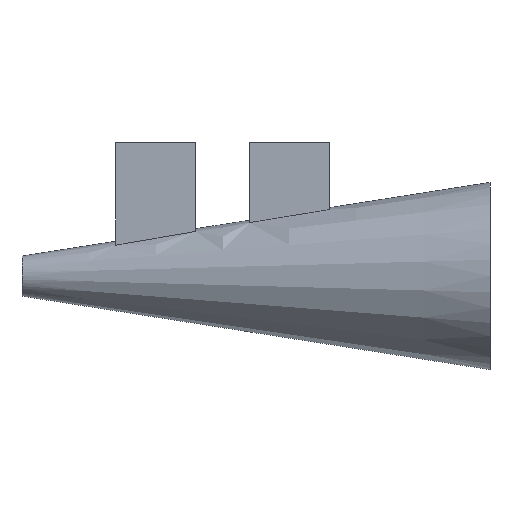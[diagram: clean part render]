
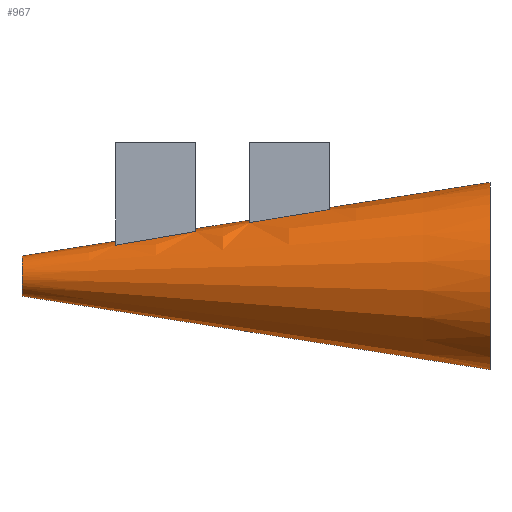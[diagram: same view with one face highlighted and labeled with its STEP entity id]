
A CAD part, left-side view. The second image highlights one B-rep face of the part: STEP entity #967.
In plain terms, the highlighted conical face has half-angle 8.931 degrees and reference radius 7000 mm.
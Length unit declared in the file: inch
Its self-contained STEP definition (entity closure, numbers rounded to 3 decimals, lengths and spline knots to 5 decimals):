
#26 = LINE ( 'NONE', #299, #783 ) ;
#36 = CARTESIAN_POINT ( 'NONE',  ( -47.24409, 492.12938, 192.54602 ) ) ;
#52 = CARTESIAN_POINT ( 'NONE',  ( -47.24409, 511.81714, 189.35911 ) ) ;
#55 = EDGE_CURVE ( 'NONE', #670, #95, #727, .T. ) ;
#56 = VERTEX_POINT ( 'NONE', #495 ) ;
#70 = EDGE_LOOP ( 'NONE', ( #895, #622, #509, #846, #761, #1061, #1032, #899, #536, #740, #992, #489 ) ) ;
#75 = AXIS2_PLACEMENT_3D ( 'NONE', #1130, #99, #881 ) ;
#77 = CARTESIAN_POINT ( 'NONE',  ( -47.24409, 1023.66824, 104.55178 ) ) ;
#80 = CARTESIAN_POINT ( 'NONE',  ( -47.24409, 1063.02324, 97.72606 ) ) ;
#85 = DIRECTION ( 'NONE',  ( 0., 0., -1. ) ) ;
#90 = CARTESIAN_POINT ( 'NONE',  ( 0., 1102.3622, 102.3622 ) ) ;
#95 = VERTEX_POINT ( 'NONE', #1024 ) ;
#99 = DIRECTION ( 'NONE',  ( 0., -1., 0. ) ) ;
#100 = DIRECTION ( 'NONE',  ( 0., 0., -1. ) ) ;
#104 = CIRCLE ( 'NONE', #932, 164.22947 ) ;
#109 = CIRCLE ( 'NONE', #900, 139.48256 ) ;
#115 = VERTEX_POINT ( 'NONE', #874 ) ;
#118 = CARTESIAN_POINT ( 'NONE',  ( 0., 0., 275.59055 ) ) ;
#125 = EDGE_CURVE ( 'NONE', #586, #115, #109, .T. ) ;
#127 = CARTESIAN_POINT ( 'NONE',  ( -47.24409, 708.66142, 157.28736 ) ) ;
#133 = CARTESIAN_POINT ( 'NONE',  ( -47.24409, 688.98066, 160.51656 ) ) ;
#140 = VECTOR ( 'NONE', #567, 39.37008 ) ;
#159 = CARTESIAN_POINT ( 'NONE',  ( -47.24409, 1033.50828, 102.85284 ) ) ;
#177 = DIRECTION ( 'NONE',  ( 0., 1., 0. ) ) ;
#201 = CARTESIAN_POINT ( 'NONE',  ( -47.24409, 994.14365, 109.62272 ) ) ;
#212 = DIRECTION ( 'NONE',  ( 0., -0.988, 0.155 ) ) ;
#220 = CONICAL_SURFACE ( 'NONE', #863, 275.59055, 0.156 ) ;
#227 = LINE ( 'NONE', #510, #344 ) ;
#231 = AXIS2_PLACEMENT_3D ( 'NONE', #866, #525, #879 ) ;
#241 = DIRECTION ( 'NONE',  ( 0., -1., 0. ) ) ;
#269 = CARTESIAN_POINT ( 'NONE',  ( 0., 1377.95276, -59.05512 ) ) ;
#282 = AXIS2_PLACEMENT_3D ( 'NONE', #342, #798, #1045 ) ;
#299 = CARTESIAN_POINT ( 'NONE',  ( 0., 0., 275.59055 ) ) ;
#303 = LINE ( 'NONE', #897, #1010 ) ;
#304 = EDGE_CURVE ( 'NONE', #95, #476, #104, .T. ) ;
#305 = DIRECTION ( 'NONE',  ( 0., 0., -1. ) ) ;
#318 = CARTESIAN_POINT ( 'NONE',  ( -47.24409, 629.93216, 170.16683 ) ) ;
#322 = CARTESIAN_POINT ( 'NONE',  ( 0., 0., -275.59055 ) ) ;
#342 = CARTESIAN_POINT ( 'NONE',  ( 0., 472.44094, 0. ) ) ;
#344 = VECTOR ( 'NONE', #1029, 39.37008 ) ;
#373 = LINE ( 'NONE', #655, #140 ) ;
#376 = DIRECTION ( 'NONE',  ( 0., -0.988, 0.155 ) ) ;
#378 = EDGE_CURVE ( 'NONE', #56, #670, #813, .T. ) ;
#403 = CARTESIAN_POINT ( 'NONE',  ( -47.24409, 669.29857, 163.73776 ) ) ;
#408 = VERTEX_POINT ( 'NONE', #90 ) ;
#417 = EDGE_CURVE ( 'NONE', #115, #521, #644, .T. ) ;
#421 = CARTESIAN_POINT ( 'NONE',  ( 0., 866.14173, 0. ) ) ;
#431 = EDGE_CURVE ( 'NONE', #1106, #434, #864, .T. ) ;
#434 = VERTEX_POINT ( 'NONE', #269 ) ;
#468 = CARTESIAN_POINT ( 'NONE',  ( 0., 0., 0. ) ) ;
#476 = VERTEX_POINT ( 'NONE', #714 ) ;
#489 = ORIENTED_EDGE ( 'NONE', *, *, #926, .T. ) ;
#495 = CARTESIAN_POINT ( 'NONE',  ( 0., 472.44094, 201.34983 ) ) ;
#509 = ORIENTED_EDGE ( 'NONE', *, *, #664, .T. ) ;
#510 = CARTESIAN_POINT ( 'NONE',  ( 0., 0., 275.59055 ) ) ;
#520 = DIRECTION ( 'NONE',  ( 0., 0., 1. ) ) ;
#521 = VERTEX_POINT ( 'NONE', #804 ) ;
#525 = DIRECTION ( 'NONE',  ( 0., 1., 0. ) ) ;
#536 = ORIENTED_EDGE ( 'NONE', *, *, #752, .F. ) ;
#545 = CARTESIAN_POINT ( 'NONE',  ( -47.24409, 1053.18578, 99.43998 ) ) ;
#565 = CARTESIAN_POINT ( 'NONE',  ( -47.24409, 570.87732, 179.77909 ) ) ;
#567 = DIRECTION ( 'NONE',  ( 0., -0.988, -0.155 ) ) ;
#570 = CARTESIAN_POINT ( 'NONE',  ( -47.24409, 610.24784, 173.37468 ) ) ;
#586 = VERTEX_POINT ( 'NONE', #1005 ) ;
#598 = CARTESIAN_POINT ( 'NONE',  ( -47.24409, 1003.98592, 107.93672 ) ) ;
#609 = VERTEX_POINT ( 'NONE', #118 ) ;
#611 = CARTESIAN_POINT ( 'NONE',  ( 0., 0., 0. ) ) ;
#616 = CARTESIAN_POINT ( 'NONE',  ( -47.24409, 905.53681, 124.64422 ) ) ;
#622 = ORIENTED_EDGE ( 'NONE', *, *, #431, .T. ) ;
#624 = CARTESIAN_POINT ( 'NONE',  ( -47.24409, 1082.69512, 94.28073 ) ) ;
#639 = AXIS2_PLACEMENT_3D ( 'NONE', #468, #817, #305 ) ;
#641 = CARTESIAN_POINT ( 'NONE',  ( -47.24409, 944.92353, 118.00216 ) ) ;
#644 = B_SPLINE_CURVE_WITH_KNOTS ( 'NONE', 3,
 ( #706, #951, #616, #641, #993, #201, #598, #77, #159, #545, #80, #624, #1047, #794 ),
 .UNSPECIFIED., .F., .F.,
 ( 4, 2, 2, 2, 2, 2, 4 ),
 ( 9.34268, 10.86451, 12.38635, 13.14726, 13.90818, 14.6691, 15.43001 ),
 .UNSPECIFIED. ) ;
#655 = CARTESIAN_POINT ( 'NONE',  ( 0., 0., -275.59055 ) ) ;
#656 = EDGE_CURVE ( 'NONE', #609, #842, #1133, .T. ) ;
#664 = EDGE_CURVE ( 'NONE', #434, #842, #373, .T. ) ;
#670 = VERTEX_POINT ( 'NONE', #996 ) ;
#677 = EDGE_CURVE ( 'NONE', #56, #609, #26, .T. ) ;
#706 = CARTESIAN_POINT ( 'NONE',  ( -47.24409, 866.14173, 131.23788 ) ) ;
#714 = CARTESIAN_POINT ( 'NONE',  ( 0., 708.66142, 164.22947 ) ) ;
#727 = B_SPLINE_CURVE_WITH_KNOTS ( 'NONE', 3,
 ( #909, #36, #52, #739, #565, #570, #318, #403, #133, #127 ),
 .UNSPECIFIED., .F., .F.,
 ( 4, 2, 2, 2, 4 ),
 ( 9.33773, 10.85746, 12.3772, 13.89693, 15.41666 ),
 .UNSPECIFIED. ) ;
#729 = CIRCLE ( 'NONE', #231, 102.3622 ) ;
#739 = CARTESIAN_POINT ( 'NONE',  ( -47.24409, 551.19111, 182.97565 ) ) ;
#740 = ORIENTED_EDGE ( 'NONE', *, *, #125, .T. ) ;
#752 = EDGE_CURVE ( 'NONE', #586, #476, #227, .T. ) ;
#761 = ORIENTED_EDGE ( 'NONE', *, *, #677, .F. ) ;
#783 = VECTOR ( 'NONE', #376, 39.37008 ) ;
#794 = CARTESIAN_POINT ( 'NONE',  ( -47.24409, 1102.3622, 90.80758 ) ) ;
#798 = DIRECTION ( 'NONE',  ( 0., -1., 0. ) ) ;
#804 = CARTESIAN_POINT ( 'NONE',  ( -47.24409, 1102.3622, 90.80758 ) ) ;
#813 = CIRCLE ( 'NONE', #282, 201.34983 ) ;
#817 = DIRECTION ( 'NONE',  ( 0., -1., 0. ) ) ;
#842 = VERTEX_POINT ( 'NONE', #322 ) ;
#846 = ORIENTED_EDGE ( 'NONE', *, *, #656, .F. ) ;
#863 = AXIS2_PLACEMENT_3D ( 'NONE', #611, #892, #85 ) ;
#864 = CIRCLE ( 'NONE', #75, 59.05512 ) ;
#866 = CARTESIAN_POINT ( 'NONE',  ( 0., 1102.3622, 0. ) ) ;
#874 = CARTESIAN_POINT ( 'NONE',  ( -47.24409, 866.14173, 131.23788 ) ) ;
#879 = DIRECTION ( 'NONE',  ( 0., 0., -1. ) ) ;
#881 = DIRECTION ( 'NONE',  ( 0., 0., -1. ) ) ;
#892 = DIRECTION ( 'NONE',  ( 0., -1., 0. ) ) ;
#895 = ORIENTED_EDGE ( 'NONE', *, *, #1075, .F. ) ;
#897 = CARTESIAN_POINT ( 'NONE',  ( 0., 0., 275.59055 ) ) ;
#899 = ORIENTED_EDGE ( 'NONE', *, *, #304, .T. ) ;
#900 = AXIS2_PLACEMENT_3D ( 'NONE', #421, #241, #520 ) ;
#909 = CARTESIAN_POINT ( 'NONE',  ( -47.24409, 472.44094, 195.72877 ) ) ;
#926 = EDGE_CURVE ( 'NONE', #521, #408, #729, .T. ) ;
#932 = AXIS2_PLACEMENT_3D ( 'NONE', #976, #177, #100 ) ;
#951 = CARTESIAN_POINT ( 'NONE',  ( -47.24409, 885.84045, 127.9479 ) ) ;
#967 = ADVANCED_FACE ( 'NONE', ( #1128 ), #220, .T. ) ;
#976 = CARTESIAN_POINT ( 'NONE',  ( 0., 708.66142, 0. ) ) ;
#992 = ORIENTED_EDGE ( 'NONE', *, *, #417, .T. ) ;
#993 = CARTESIAN_POINT ( 'NONE',  ( -47.24409, 964.6139, 114.66383 ) ) ;
#996 = CARTESIAN_POINT ( 'NONE',  ( -47.24409, 472.44094, 195.72877 ) ) ;
#1005 = CARTESIAN_POINT ( 'NONE',  ( 0., 866.14173, 139.48256 ) ) ;
#1010 = VECTOR ( 'NONE', #212, 39.37008 ) ;
#1024 = CARTESIAN_POINT ( 'NONE',  ( -47.24409, 708.66142, 157.28736 ) ) ;
#1029 = DIRECTION ( 'NONE',  ( 0., -0.988, 0.155 ) ) ;
#1032 = ORIENTED_EDGE ( 'NONE', *, *, #55, .T. ) ;
#1045 = DIRECTION ( 'NONE',  ( 0., 0., 1. ) ) ;
#1047 = CARTESIAN_POINT ( 'NONE',  ( -47.24409, 1092.52956, 92.54932 ) ) ;
#1061 = ORIENTED_EDGE ( 'NONE', *, *, #378, .T. ) ;
#1075 = EDGE_CURVE ( 'NONE', #1106, #408, #303, .T. ) ;
#1083 = CARTESIAN_POINT ( 'NONE',  ( 0., 1377.95276, 59.05512 ) ) ;
#1106 = VERTEX_POINT ( 'NONE', #1083 ) ;
#1128 = FACE_OUTER_BOUND ( 'NONE', #70, .T. ) ;
#1130 = CARTESIAN_POINT ( 'NONE',  ( 0., 1377.95276, 0. ) ) ;
#1133 = CIRCLE ( 'NONE', #639, 275.59055 ) ;
